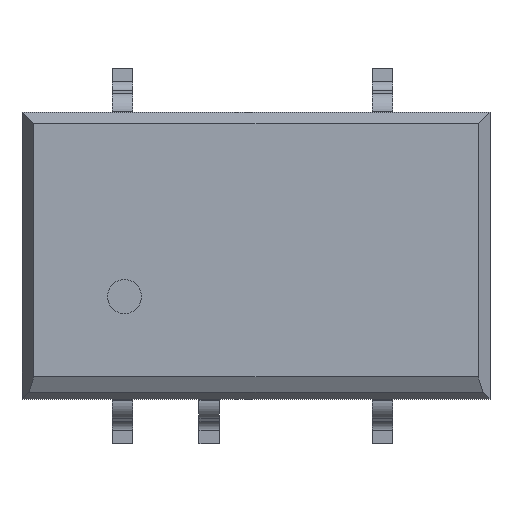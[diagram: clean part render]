
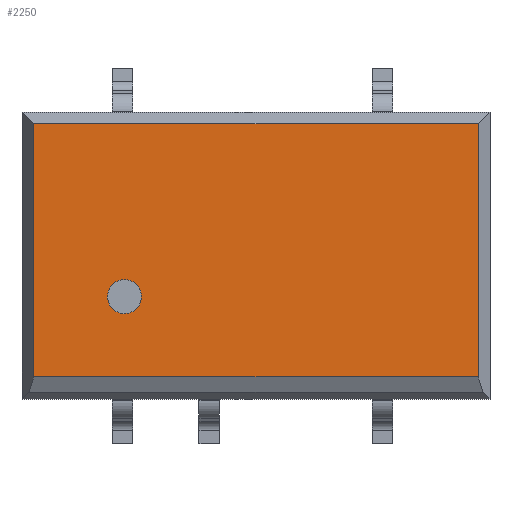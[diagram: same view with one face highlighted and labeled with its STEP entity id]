
A CAD part, top view. The second image highlights one B-rep face of the part: STEP entity #2250.
In plain terms, the highlighted planar face has unit normal (0, 0, 1).
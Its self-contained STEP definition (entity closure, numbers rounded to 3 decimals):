
#36=FACE_BOUND('',#226,.T.);
#54=CIRCLE('',#2377,0.5);
#101=FACE_OUTER_BOUND('',#225,.T.);
#225=EDGE_LOOP('',(#1417,#1418,#1419,#1420));
#226=EDGE_LOOP('',(#1421));
#367=LINE('',#3152,#631);
#371=LINE('',#3161,#635);
#374=LINE('',#3167,#638);
#375=LINE('',#3168,#639);
#631=VECTOR('',#2548,13.007);
#635=VECTOR('',#2556,7.407);
#638=VECTOR('',#2561,7.407);
#639=VECTOR('',#2562,13.007);
#892=VERTEX_POINT('',#3145);
#895=VERTEX_POINT('',#3150);
#898=VERTEX_POINT('',#3160);
#900=VERTEX_POINT('',#3166);
#901=VERTEX_POINT('',#3169);
#1099=EDGE_CURVE('',#895,#892,#367,.T.);
#1103=EDGE_CURVE('',#892,#898,#371,.T.);
#1106=EDGE_CURVE('',#900,#895,#374,.T.);
#1107=EDGE_CURVE('',#898,#900,#375,.T.);
#1108=EDGE_CURVE('',#901,#901,#54,.T.);
#1417=ORIENTED_EDGE('',*,*,#1099,.F.);
#1418=ORIENTED_EDGE('',*,*,#1106,.F.);
#1419=ORIENTED_EDGE('',*,*,#1107,.F.);
#1420=ORIENTED_EDGE('',*,*,#1103,.F.);
#1421=ORIENTED_EDGE('',*,*,#1108,.T.);
#2023=PLANE('',#2376);
#2250=ADVANCED_FACE('',(#101,#36),#2023,.T.);
#2376=AXIS2_PLACEMENT_3D('',#3165,#2559,#2560);
#2377=AXIS2_PLACEMENT_3D('',#3170,#2563,#2564);
#2548=DIRECTION('',(-1.,0.,0.));
#2556=DIRECTION('',(0.,1.,0.));
#2559=DIRECTION('center_axis',(0.,0.,1.));
#2560=DIRECTION('ref_axis',(1.,0.,0.));
#2561=DIRECTION('',(0.,-1.,0.));
#2562=DIRECTION('',(1.,0.,0.));
#2563=DIRECTION('center_axis',(0.,0.,-1.));
#2564=DIRECTION('ref_axis',(-1.,0.,0.));
#3145=CARTESIAN_POINT('',(-6.504,-3.554,6.85));
#3150=CARTESIAN_POINT('',(6.504,-3.554,6.85));
#3152=CARTESIAN_POINT('',(1.713,-3.554,6.85));
#3160=CARTESIAN_POINT('',(-6.504,3.854,6.85));
#3161=CARTESIAN_POINT('',(-6.504,-2.1,6.85));
#3165=CARTESIAN_POINT('Origin',(0.,0.,6.85));
#3166=CARTESIAN_POINT('',(6.504,3.854,6.85));
#3167=CARTESIAN_POINT('',(6.504,2.1,6.85));
#3168=CARTESIAN_POINT('',(-3.425,3.854,6.85));
#3169=CARTESIAN_POINT('',(-3.35,-1.2,6.85));
#3170=CARTESIAN_POINT('Origin',(-3.85,-1.2,6.85));
